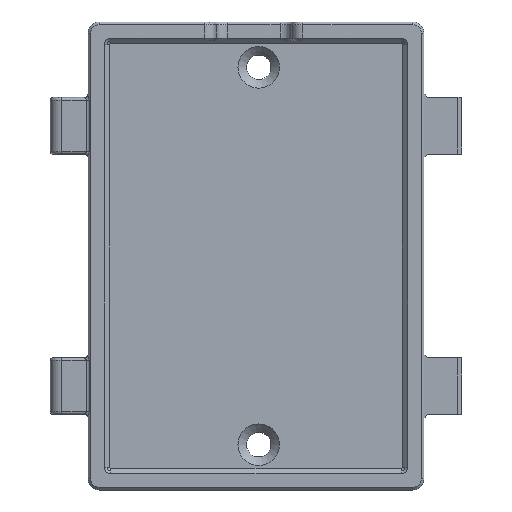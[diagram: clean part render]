
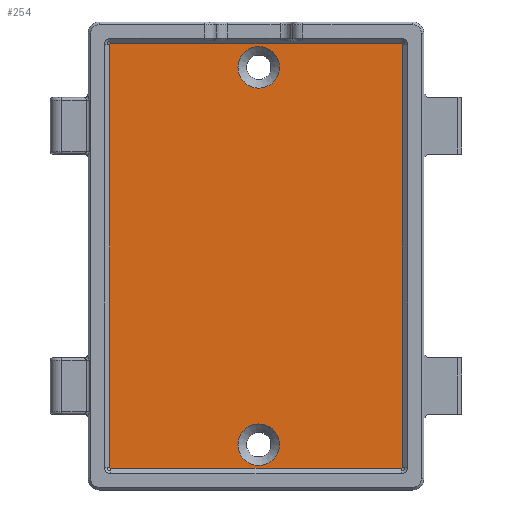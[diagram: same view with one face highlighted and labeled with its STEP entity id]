
A CAD part, top view. The second image highlights one B-rep face of the part: STEP entity #254.
In plain terms, the highlighted planar face has unit normal (0, 0, 1).
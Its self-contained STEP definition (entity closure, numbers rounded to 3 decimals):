
#131=FACE_BOUND('',#712,.T.);
#132=FACE_BOUND('',#713,.T.);
#133=FACE_BOUND('',#714,.T.);
#254=ADVANCED_FACE('',(#131,#132,#133),#448,.T.);
#448=PLANE('',#3283);
#712=EDGE_LOOP('',(#1544));
#713=EDGE_LOOP('',(#1545));
#714=EDGE_LOOP('',(#1546,#1547,#1548,#1549,#1550,#1551,#1552,#1553));
#1001=LINE('',#4966,#1241);
#1002=LINE('',#4971,#1242);
#1003=LINE('',#4975,#1243);
#1004=LINE('',#4979,#1244);
#1241=VECTOR('',#3816,1.);
#1242=VECTOR('',#3819,1.);
#1243=VECTOR('',#3822,1.);
#1244=VECTOR('',#3825,1.);
#1544=ORIENTED_EDGE('',*,*,#2737,.T.);
#1545=ORIENTED_EDGE('',*,*,#2738,.T.);
#1546=ORIENTED_EDGE('',*,*,#2739,.T.);
#1547=ORIENTED_EDGE('',*,*,#2740,.T.);
#1548=ORIENTED_EDGE('',*,*,#2741,.T.);
#1549=ORIENTED_EDGE('',*,*,#2742,.T.);
#1550=ORIENTED_EDGE('',*,*,#2743,.T.);
#1551=ORIENTED_EDGE('',*,*,#2744,.T.);
#1552=ORIENTED_EDGE('',*,*,#2745,.T.);
#1553=ORIENTED_EDGE('',*,*,#2746,.T.);
#2466=VERTEX_POINT('',#4963);
#2467=VERTEX_POINT('',#4965);
#2468=VERTEX_POINT('',#4967);
#2469=VERTEX_POINT('',#4968);
#2470=VERTEX_POINT('',#4970);
#2471=VERTEX_POINT('',#4972);
#2472=VERTEX_POINT('',#4974);
#2473=VERTEX_POINT('',#4976);
#2474=VERTEX_POINT('',#4978);
#2475=VERTEX_POINT('',#4980);
#2737=EDGE_CURVE('',#2466,#2466,#3080,.T.);
#2738=EDGE_CURVE('',#2467,#2467,#3081,.T.);
#2739=EDGE_CURVE('',#2468,#2469,#1001,.T.);
#2740=EDGE_CURVE('',#2469,#2470,#3082,.T.);
#2741=EDGE_CURVE('',#2470,#2471,#1002,.T.);
#2742=EDGE_CURVE('',#2471,#2472,#3083,.T.);
#2743=EDGE_CURVE('',#2472,#2473,#1003,.T.);
#2744=EDGE_CURVE('',#2473,#2474,#3084,.T.);
#2745=EDGE_CURVE('',#2474,#2475,#1004,.T.);
#2746=EDGE_CURVE('',#2475,#2468,#3085,.T.);
#3080=CIRCLE('',#3277,5.5);
#3081=CIRCLE('',#3278,5.5);
#3082=CIRCLE('',#3279,0.3);
#3083=CIRCLE('',#3280,0.3);
#3084=CIRCLE('',#3281,0.3);
#3085=CIRCLE('',#3282,0.3);
#3277=AXIS2_PLACEMENT_3D('',#4962,#3812,#3813);
#3278=AXIS2_PLACEMENT_3D('',#4964,#3814,#3815);
#3279=AXIS2_PLACEMENT_3D('',#4969,#3817,#3818);
#3280=AXIS2_PLACEMENT_3D('',#4973,#3820,#3821);
#3281=AXIS2_PLACEMENT_3D('',#4977,#3823,#3824);
#3282=AXIS2_PLACEMENT_3D('',#4981,#3826,#3827);
#3283=AXIS2_PLACEMENT_3D('',#4982,#3828,#3829);
#3812=DIRECTION('',(0.,0.,-1.));
#3813=DIRECTION('',(-1.,0.,0.));
#3814=DIRECTION('',(0.,0.,-1.));
#3815=DIRECTION('',(-1.,0.,0.));
#3816=DIRECTION('',(-1.,0.,0.));
#3817=DIRECTION('',(0.,0.,1.));
#3818=DIRECTION('',(1.,0.,0.));
#3819=DIRECTION('',(0.,-1.,0.));
#3820=DIRECTION('',(0.,0.,1.));
#3821=DIRECTION('',(1.,0.,0.));
#3822=DIRECTION('',(1.,0.,0.));
#3823=DIRECTION('',(0.,0.,1.));
#3824=DIRECTION('',(1.,0.,0.));
#3825=DIRECTION('',(0.,1.,0.));
#3826=DIRECTION('',(0.,0.,1.));
#3827=DIRECTION('',(1.,0.,0.));
#3828=DIRECTION('',(0.,0.,1.));
#3829=DIRECTION('',(1.,0.,0.));
#4962=CARTESIAN_POINT('',(0.,50.,0.));
#4963=CARTESIAN_POINT('',(-5.5,50.,0.));
#4964=CARTESIAN_POINT('',(0.,-50.,0.));
#4965=CARTESIAN_POINT('',(-5.5,-50.,0.));
#4966=CARTESIAN_POINT('',(0.,56.3,0.));
#4967=CARTESIAN_POINT('',(37.782,56.3,0.));
#4968=CARTESIAN_POINT('',(-39.218,56.3,0.));
#4969=CARTESIAN_POINT('',(-39.218,56.,0.));
#4970=CARTESIAN_POINT('',(-39.518,56.,0.));
#4971=CARTESIAN_POINT('',(-39.518,0.,0.));
#4972=CARTESIAN_POINT('',(-39.518,-56.,0.));
#4973=CARTESIAN_POINT('',(-39.218,-56.,0.));
#4974=CARTESIAN_POINT('',(-39.218,-56.3,0.));
#4975=CARTESIAN_POINT('',(0.,-56.3,0.));
#4976=CARTESIAN_POINT('',(37.782,-56.3,0.));
#4977=CARTESIAN_POINT('',(37.782,-56.,0.));
#4978=CARTESIAN_POINT('',(38.082,-56.,0.));
#4979=CARTESIAN_POINT('',(38.082,0.,0.));
#4980=CARTESIAN_POINT('',(38.082,56.,0.));
#4981=CARTESIAN_POINT('',(37.782,56.,0.));
#4982=CARTESIAN_POINT('',(0.,0.,0.));
